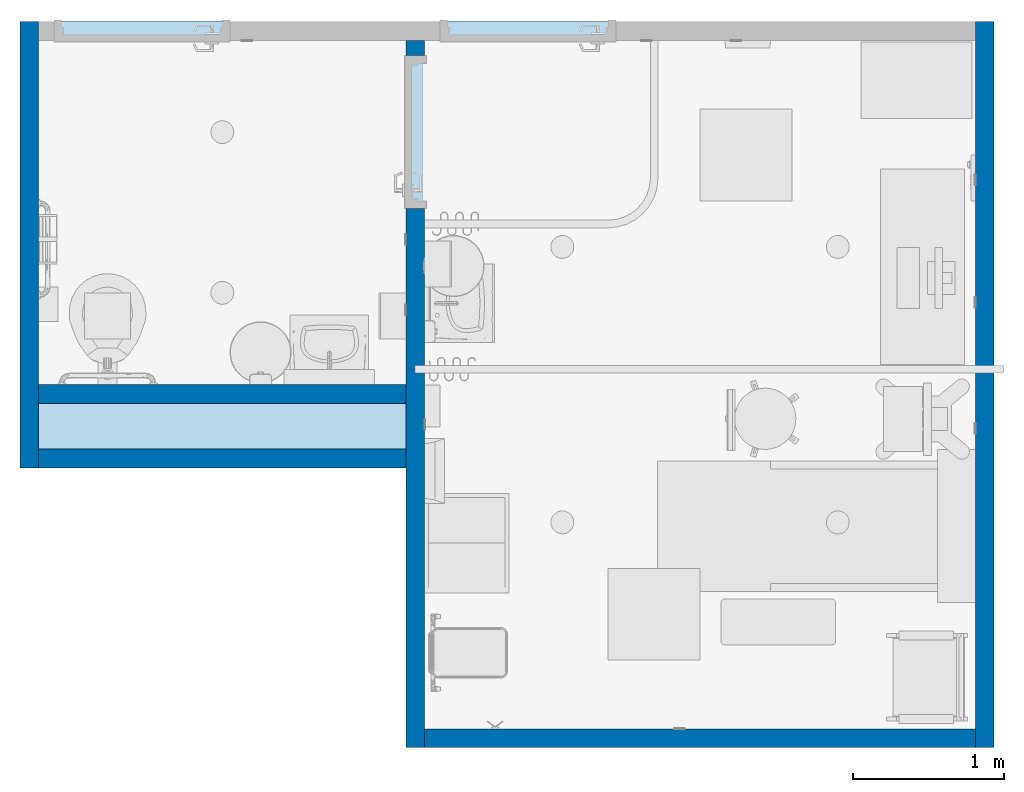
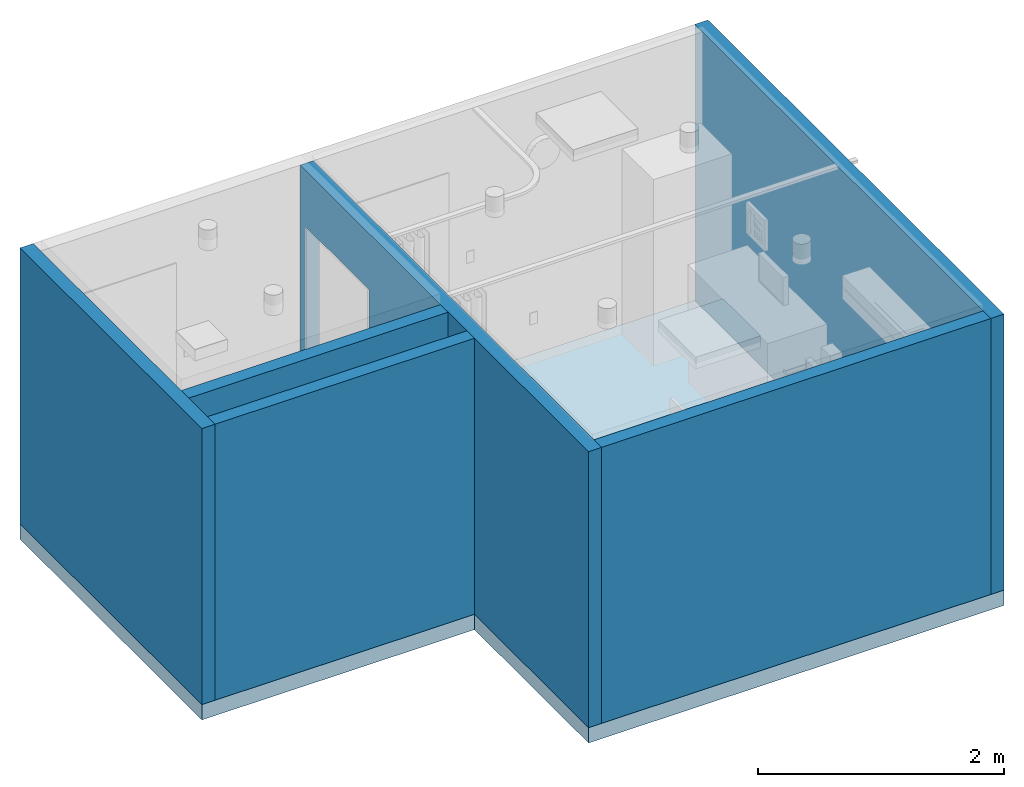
# One storey, part 1 of 14: 6 walls, 1 slab, 1 opening.
"""IFC2X3 building model written with IfcOpenShell, lengths in feet."""

from ifc_helpers import new_model, entity, si_unit, converted_unit, derived_unit, direction, frame, frame_2d, origin, place, context, subcontext, project, spatial, polyline, rectangle, outline, extrude, material, layer, layer_set, layer_usage, type_object, element, save


model = new_model("IFC2X3")

# Units and contexts
model_context = context("Model", 3, precision=0.0001, world=origin(), true_north=direction((6.12303176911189e-17, 1.0)))
body_context = subcontext(model_context, "Body", "Model", "MODEL_VIEW")
ifc_project = project(units=[converted_unit("LENGTHUNIT", "FOOT", entity("IfcRatioMeasure", 0.3048), si_unit("LENGTHUNIT", "METRE"), dimensions=[1, 0, 0, 0, 0, 0, 0]), converted_unit("AREAUNIT", "SQUARE FOOT", entity("IfcRatioMeasure", 0.09290304), si_unit("AREAUNIT", "SQUARE_METRE"), dimensions=[2, 0, 0, 0, 0, 0, 0]), converted_unit("VOLUMEUNIT", "CUBIC FOOT", entity("IfcRatioMeasure", 0.028316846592), si_unit("VOLUMEUNIT", "CUBIC_METRE"), dimensions=[3, 0, 0, 0, 0, 0, 0]), converted_unit("PLANEANGLEUNIT", "DEGREE", entity("IfcRatioMeasure", 0.0174532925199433), si_unit("PLANEANGLEUNIT", "RADIAN"), dimensions=[0, 0, 0, 0, 0, 0, 0]), si_unit("MASSUNIT", "GRAM", prefix="KILO"), derived_unit("MASSDENSITYUNIT", [(si_unit("MASSUNIT", "GRAM", prefix="KILO"), 1), (si_unit("LENGTHUNIT", "METRE"), -3)]), si_unit("TIMEUNIT", "SECOND"), si_unit("FREQUENCYUNIT", "HERTZ"), si_unit("THERMODYNAMICTEMPERATUREUNIT", "DEGREE_CELSIUS"), derived_unit("THERMALTRANSMITTANCEUNIT", [(si_unit("MASSUNIT", "GRAM", prefix="KILO"), 1), (si_unit("THERMODYNAMICTEMPERATUREUNIT", "KELVIN"), -1), (si_unit("TIMEUNIT", "SECOND"), -3)]), derived_unit("VOLUMETRICFLOWRATEUNIT", [(si_unit("LENGTHUNIT", "METRE"), 3), (si_unit("TIMEUNIT", "SECOND"), -1)]), si_unit("ELECTRICCURRENTUNIT", "AMPERE"), si_unit("ELECTRICVOLTAGEUNIT", "VOLT"), si_unit("POWERUNIT", "WATT"), si_unit("FORCEUNIT", "NEWTON"), si_unit("ILLUMINANCEUNIT", "LUX"), si_unit("LUMINOUSFLUXUNIT", "LUMEN"), si_unit("LUMINOUSINTENSITYUNIT", "CANDELA"), derived_unit("USERDEFINED", [(si_unit("MASSUNIT", "GRAM", prefix="KILO"), -1), (si_unit("LENGTHUNIT", "METRE"), -2), (si_unit("TIMEUNIT", "SECOND"), 3), (si_unit("LUMINOUSFLUXUNIT", "LUMEN"), 1)]), derived_unit("LINEARVELOCITYUNIT", [(si_unit("LENGTHUNIT", "METRE"), 1), (si_unit("TIMEUNIT", "SECOND"), -1)]), si_unit("PRESSUREUNIT", "PASCAL"), derived_unit("USERDEFINED", [(si_unit("LENGTHUNIT", "METRE"), -2), (si_unit("MASSUNIT", "GRAM", prefix="KILO"), 1), (si_unit("TIMEUNIT", "SECOND"), -2)])], contexts=[model_context])

# Site, building, storey
site_placement = place(None, origin())
site = spatial("IfcSite", under=ifc_project, at=site_placement, Name="Default", CompositionType="ELEMENT")
building_placement = place(site_placement, origin())
building = spatial("IfcBuilding", under=site, at=building_placement, Name="OUTPATIENT / PACT CLINIC (Ch. 265)", CompositionType="ELEMENT")
storey_placement = place(building_placement, origin())
storey = spatial("IfcBuildingStorey", under=building, at=storey_placement, Name="DATUM", CompositionType="ELEMENT", Elevation=0.0)

# Slab
ifc_material = material(Name="<Unnamed>")
ifc_layer_1 = layer(ifc_material, 0.5)
ifc_layer_set_1 = layer_set([ifc_layer_1], Name="Floor:Generic - 6\"")
ifc_layer_usage_1 = layer_usage(ifc_layer_set_1, "AXIS3", "POSITIVE", 0.0)
slab_placement = place(storey_placement, origin())
element("IfcSlab", 1, at=slab_placement, inside=storey, material=ifc_layer_usage_1, Name="Floor:Generic - 6\"", ObjectType="Floor:Generic - 6\"", PredefinedType="FLOOR", context=body_context, shape_type="SweptSolid", body=[
    extrude(outline(polyline([(-1.20833333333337, -9.87499999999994), (8.51041666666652, -9.87499999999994), (8.51041666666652, 11.34375), (-7.30208333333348, 11.3437499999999), (-7.30208333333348, -1.46874999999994), (-1.20833333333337, -1.46874999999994), (-1.20833333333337, -9.87499999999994)])), frame((333.700193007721, -851.197890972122, 0.0), z_axis=(0.0, 0.0, -1.0), x_axis=(0.0, 1.0, 0.0)), (0.0, 0.0, 1.0), 0.5),
])

# Wall
ifc_layer_2 = layer(ifc_material, 0.40625)
ifc_layer_set_2 = layer_set([ifc_layer_2], Name="Basic Wall:Interior - 4 7/8\"")
ifc_layer_usage_2 = layer_usage(ifc_layer_set_2, "AXIS2", "POSITIVE", -0.203125)
wall_type = type_object("IfcWallType", Name="Basic Wall:Interior - 4 7/8\"", PredefinedType="STANDARD", material=ifc_layer_set_2)
wall_1_placement = place(storey_placement, frame((344.840818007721, -858.499974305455, 0.0), z_axis=(0.0, 0.0, 1.0), x_axis=(0.0, 1.0, 0.0)))
element("IfcWallStandardCase", 2, at=wall_1_placement, inside=storey, type_object=wall_type, material=ifc_layer_usage_2, Name="Basic Wall:Interior - 4 7/8\"", ObjectType="Basic Wall:Interior - 4 7/8\"", context=body_context, shape_type="SweptSolid", body=[
    extrude(rectangle(XDim=15.8125, YDim=0.40625, at=frame_2d((7.90625, -2.94209101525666e-15), x_axis=(-1.0, 0.0))), origin(), (0.0, 0.0, 1.0), 9.0),
])

# Wall, opening
ifc_layer_usage_3 = layer_usage(ifc_layer_set_2, "AXIS2", "NEGATIVE", 0.203125)
wall_2_placement = place(storey_placement, frame((332.434568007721, -843.093724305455, 0.0), z_axis=(0.0, 0.0, 1.0), x_axis=(0.0, -1.0, 0.0)))
wall_2 = element("IfcWallStandardCase", 3, at=wall_2_placement, inside=storey, type_object=wall_type, material=ifc_layer_usage_3, Name="Basic Wall:Interior - 4 7/8\"", ObjectType="Basic Wall:Interior - 4 7/8\"", context=body_context, shape_type="SweptSolid", body=[
    extrude(rectangle(XDim=15.40625, YDim=0.40625, at=frame_2d((7.703125, -3.38618022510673e-15), x_axis=(-1.0, 0.0))), origin(), (0.0, 0.0, 1.0), 9.0),
])
opening_placement = place(wall_2_placement, frame((3.66666666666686, 0.203125, 0.0)))
element("IfcOpeningElement", 4, at=opening_placement, cuts=wall_2, Name="Single - Flush:36\" x 84\":1", ObjectType="Opening", context=body_context, shape_type="SweptSolid", body=[
    extrude(rectangle(XDim=3.33333333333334, YDim=7.16666666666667, at=frame_2d((3.58333333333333, 1.66666666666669), x_axis=(0.0, 1.0))), frame((0.0, 0.0, 0.0), z_axis=(0.0, -1.0, 0.0), x_axis=(0.0, 0.0, 1.0)), (0.0, 0.0, 1.0), 0.40625),
])

# Walls
ifc_layer_usage_4 = layer_usage(ifc_layer_set_2, "AXIS2", "NEGATIVE", 0.203125)
wall_3_placement = place(storey_placement, frame((332.637693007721, -858.296849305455, 0.0)))
element("IfcWallStandardCase", 5, at=wall_3_placement, inside=storey, type_object=wall_type, material=ifc_layer_usage_4, Name="Basic Wall:Interior - 4 7/8\"", ObjectType="Basic Wall:Interior - 4 7/8\"", context=body_context, shape_type="SweptSolid", body=[
    extrude(rectangle(XDim=11.9999999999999, YDim=0.40625, at=frame_2d((5.99999999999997, 0.0), x_axis=(-1.0, 0.0))), origin(), (0.0, 0.0, 1.0), 9.0),
])
ifc_layer_usage_5 = layer_usage(ifc_layer_set_2, "AXIS2", "NEGATIVE", 0.203125)
wall_4_placement = place(storey_placement, frame((332.231443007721, -850.796849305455, 0.0), z_axis=(0.0, 0.0, 1.0), x_axis=(-1.0, 0.0, 0.0)))
element("IfcWallStandardCase", 6, at=wall_4_placement, inside=storey, type_object=wall_type, material=ifc_layer_usage_5, Name="Basic Wall:Interior - 4 7/8\"", ObjectType="Basic Wall:Interior - 4 7/8\"", context=body_context, shape_type="SweptSolid", body=[
    extrude(rectangle(XDim=8.0, YDim=0.40625, at=frame_2d((4.0, 0.0), x_axis=(-1.0, 0.0))), origin(), (0.0, 0.0, 1.0), 9.0),
])
ifc_layer_usage_6 = layer_usage(ifc_layer_set_2, "AXIS2", "NEGATIVE", 0.203125)
wall_5_placement = place(storey_placement, frame((324.028318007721, -852.406224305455, 0.0), z_axis=(0.0, 0.0, 1.0), x_axis=(0.0, 1.0, 0.0)))
element("IfcWallStandardCase", 7, at=wall_5_placement, inside=storey, type_object=wall_type, material=ifc_layer_usage_6, Name="Basic Wall:Interior - 4 7/8\"", ObjectType="Basic Wall:Interior - 4 7/8\"", context=body_context, shape_type="SweptSolid", body=[
    extrude(rectangle(XDim=9.71874999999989, YDim=0.40625, at=frame_2d((4.85937499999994, 0.0), x_axis=(-1.0, 0.0))), origin(), (0.0, 0.0, 1.0), 9.0),
])
ifc_layer_usage_7 = layer_usage(ifc_layer_set_2, "AXIS2", "POSITIVE", -0.203125)
wall_6_placement = place(storey_placement, frame((324.231443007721, -852.203099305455, 0.0)))
element("IfcWallStandardCase", 8, at=wall_6_placement, inside=storey, type_object=wall_type, material=ifc_layer_usage_7, Name="Basic Wall:Interior - 4 7/8\"", ObjectType="Basic Wall:Interior - 4 7/8\"", context=body_context, shape_type="SweptSolid", body=[
    extrude(rectangle(XDim=7.99999999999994, YDim=0.40625, at=frame_2d((3.99999999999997, 0.0), x_axis=(-1.0, 0.0))), origin(), (0.0, 0.0, 1.0), 9.0),
])

save(model, "model.ifc")
